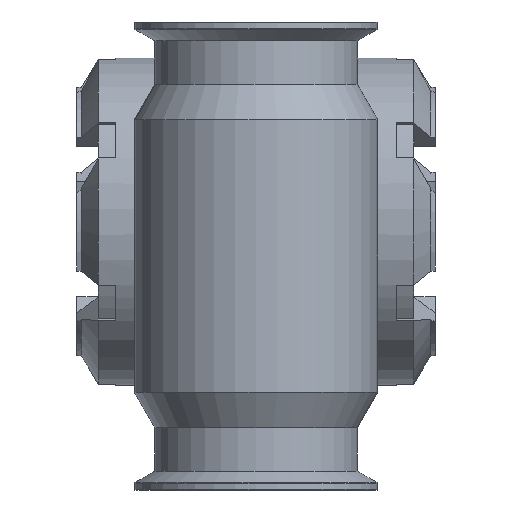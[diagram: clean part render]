
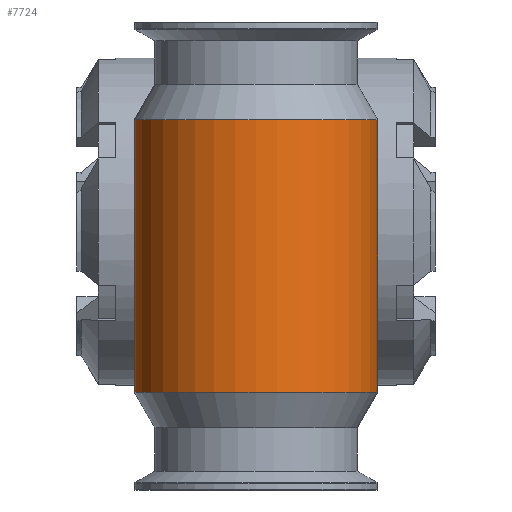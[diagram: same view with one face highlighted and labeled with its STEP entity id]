
A CAD part, front view. The second image highlights one B-rep face of the part: STEP entity #7724.
In plain terms, the highlighted cylindrical face has radius 39 mm (diameter 78 mm), a full revolution.
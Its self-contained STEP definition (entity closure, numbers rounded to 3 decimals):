
#770=CIRCLE('',#27787,39.);
#771=CIRCLE('',#27788,39.);
#3175=LINE('',#45942,#5992);
#3176=LINE('',#45960,#5993);
#5992=VECTOR('',#32782,1.);
#5993=VECTOR('',#32783,1.);
#6128=CYLINDRICAL_SURFACE('',#27789,39.);
#6353=FACE_BOUND('',#11315,.T.);
#6354=FACE_BOUND('',#11316,.T.);
#6355=FACE_BOUND('',#11317,.T.);
#7724=ADVANCED_FACE('',(#6353,#6354,#6355),#6128,.T.);
#11315=EDGE_LOOP('',(#18556));
#11316=EDGE_LOOP('',(#18557));
#11317=EDGE_LOOP('',(#18558,#18559,#18560,#18561,#18562,#18563,#18564,#18565));
#18556=ORIENTED_EDGE('',*,*,#25005,.T.);
#18557=ORIENTED_EDGE('',*,*,#25006,.T.);
#18558=ORIENTED_EDGE('',*,*,#25007,.T.);
#18559=ORIENTED_EDGE('',*,*,#25008,.T.);
#18560=ORIENTED_EDGE('',*,*,#25009,.T.);
#18561=ORIENTED_EDGE('',*,*,#25010,.T.);
#18562=ORIENTED_EDGE('',*,*,#25011,.T.);
#18563=ORIENTED_EDGE('',*,*,#25012,.T.);
#18564=ORIENTED_EDGE('',*,*,#25013,.T.);
#18565=ORIENTED_EDGE('',*,*,#25014,.T.);
#21326=VERTEX_POINT('',#45939);
#21327=VERTEX_POINT('',#45941);
#21328=VERTEX_POINT('',#45943);
#21329=VERTEX_POINT('',#45944);
#21330=VERTEX_POINT('',#45949);
#21331=VERTEX_POINT('',#45954);
#21332=VERTEX_POINT('',#45959);
#21333=VERTEX_POINT('',#45961);
#21334=VERTEX_POINT('',#45966);
#21335=VERTEX_POINT('',#45971);
#25005=EDGE_CURVE('',#21326,#21326,#770,.T.);
#25006=EDGE_CURVE('',#21327,#21327,#771,.T.);
#25007=EDGE_CURVE('',#21328,#21329,#3175,.T.);
#25008=EDGE_CURVE('',#21329,#21330,#26782,.T.);
#25009=EDGE_CURVE('',#21330,#21331,#26783,.T.);
#25010=EDGE_CURVE('',#21331,#21332,#26784,.T.);
#25011=EDGE_CURVE('',#21332,#21333,#3176,.T.);
#25012=EDGE_CURVE('',#21333,#21334,#26785,.T.);
#25013=EDGE_CURVE('',#21334,#21335,#26786,.T.);
#25014=EDGE_CURVE('',#21335,#21328,#26787,.T.);
#26782=B_SPLINE_CURVE_WITH_KNOTS('',3,(#45945,#45946,#45947,#45948),
 .UNSPECIFIED.,.F.,.F.,(4,4),(0.,1.),.UNSPECIFIED.);
#26783=B_SPLINE_CURVE_WITH_KNOTS('',3,(#45950,#45951,#45952,#45953),
 .UNSPECIFIED.,.F.,.F.,(4,4),(0.,1.),.UNSPECIFIED.);
#26784=B_SPLINE_CURVE_WITH_KNOTS('',3,(#45955,#45956,#45957,#45958),
 .UNSPECIFIED.,.F.,.F.,(4,4),(0.,1.),.UNSPECIFIED.);
#26785=B_SPLINE_CURVE_WITH_KNOTS('',3,(#45962,#45963,#45964,#45965),
 .UNSPECIFIED.,.F.,.F.,(4,4),(0.,1.),.UNSPECIFIED.);
#26786=B_SPLINE_CURVE_WITH_KNOTS('',3,(#45967,#45968,#45969,#45970),
 .UNSPECIFIED.,.F.,.F.,(4,4),(0.,1.),.UNSPECIFIED.);
#26787=B_SPLINE_CURVE_WITH_KNOTS('',3,(#45972,#45973,#45974,#45975),
 .UNSPECIFIED.,.F.,.F.,(4,4),(0.,1.),.UNSPECIFIED.);
#27787=AXIS2_PLACEMENT_3D('',#45938,#32778,#32779);
#27788=AXIS2_PLACEMENT_3D('',#45940,#32780,#32781);
#27789=AXIS2_PLACEMENT_3D('',#45976,#32784,#32785);
#32778=DIRECTION('',(0.,0.,-1.));
#32779=DIRECTION('',(1.,0.,0.));
#32780=DIRECTION('',(0.,0.,1.));
#32781=DIRECTION('',(-1.,0.,0.));
#32782=DIRECTION('',(0.,0.,-1.));
#32783=DIRECTION('',(0.,0.,1.));
#32784=DIRECTION('',(0.,0.,-1.));
#32785=DIRECTION('',(1.,0.,0.));
#45938=CARTESIAN_POINT('',(0.016,-27.,32.742));
#45939=CARTESIAN_POINT('',(39.016,-27.,32.742));
#45940=CARTESIAN_POINT('',(0.016,-27.,-54.742));
#45941=CARTESIAN_POINT('',(-38.984,-27.,-54.742));
#45942=CARTESIAN_POINT('',(-8.759,11.,3247.));
#45943=CARTESIAN_POINT('',(-8.759,11.,10.257));
#45944=CARTESIAN_POINT('',(-8.759,11.,-10.257));
#45945=CARTESIAN_POINT('',(-8.759,11.,-10.257));
#45946=CARTESIAN_POINT('',(-7.552,11.279,-12.04));
#45947=CARTESIAN_POINT('',(-5.913,11.598,-13.497));
#45948=CARTESIAN_POINT('',(-3.929,11.8,-14.366));
#45949=CARTESIAN_POINT('',(-3.929,11.8,-14.366));
#45950=CARTESIAN_POINT('',(-3.929,11.8,-14.366));
#45951=CARTESIAN_POINT('',(-1.373,12.06,-15.213));
#45952=CARTESIAN_POINT('',(1.407,12.06,-15.209));
#45953=CARTESIAN_POINT('',(3.96,11.8,-14.356));
#45954=CARTESIAN_POINT('',(3.96,11.8,-14.356));
#45955=CARTESIAN_POINT('',(3.96,11.8,-14.356));
#45956=CARTESIAN_POINT('',(5.949,11.598,-13.479));
#45957=CARTESIAN_POINT('',(7.585,11.278,-12.015));
#45958=CARTESIAN_POINT('',(8.791,11.,-10.221));
#45959=CARTESIAN_POINT('',(8.791,11.,-10.221));
#45960=CARTESIAN_POINT('',(8.791,11.,3247.));
#45961=CARTESIAN_POINT('',(8.791,11.,10.221));
#45962=CARTESIAN_POINT('',(8.791,11.,10.221));
#45963=CARTESIAN_POINT('',(7.586,11.278,12.013));
#45964=CARTESIAN_POINT('',(5.947,11.598,13.48));
#45965=CARTESIAN_POINT('',(3.96,11.8,14.356));
#45966=CARTESIAN_POINT('',(3.96,11.8,14.356));
#45967=CARTESIAN_POINT('',(3.96,11.8,14.356));
#45968=CARTESIAN_POINT('',(1.407,12.06,15.209));
#45969=CARTESIAN_POINT('',(-1.373,12.06,15.213));
#45970=CARTESIAN_POINT('',(-3.929,11.8,14.366));
#45971=CARTESIAN_POINT('',(-3.929,11.8,14.366));
#45972=CARTESIAN_POINT('',(-3.929,11.8,14.366));
#45973=CARTESIAN_POINT('',(-5.915,11.598,13.496));
#45974=CARTESIAN_POINT('',(-7.551,11.279,12.041));
#45975=CARTESIAN_POINT('',(-8.759,11.,10.257));
#45976=CARTESIAN_POINT('',(0.016,-27.,3247.));
